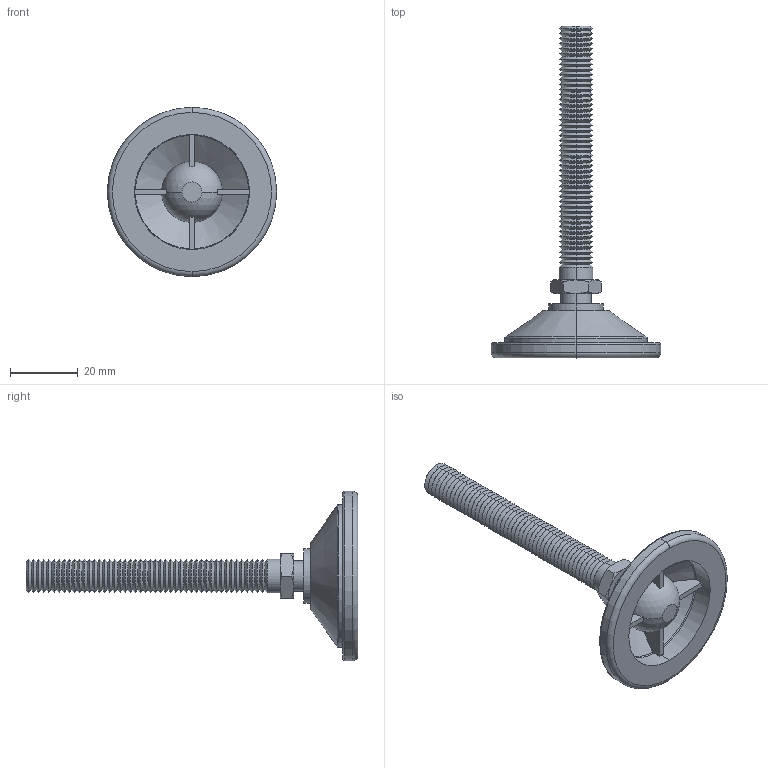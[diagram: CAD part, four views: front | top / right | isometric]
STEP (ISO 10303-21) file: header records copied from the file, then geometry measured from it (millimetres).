
FILE_DESCRIPTION (( 'STEP AP203' ), '1' );
FILE_NAME ('34741.W0105.step', '2016-09-22T07:40:24', ( 'User' ), ( '' ), 'SwSTEP 2.0', 'SolidWorks 2009', '' );
FILE_SCHEMA (( 'CONFIG_CONTROL_DESIGN' ));
Length unit declared in the file: millimetre
Products named in the file (3): Part1_34741.W0105; 34741.W0105; Part2_34741.W0105
Assembly tree (2 placements, depth 2):
  34741.W0105
    Part1_34741.W0105
    Part2_34741.W0105
Bounding box: 50 x 98 x 50 mm (x, y, z)
Volume: 16944.6 mm3; surface area: 11416.4 mm2
Topology: 2 solids, 2 shells, 268 faces, 572 edges, 310 vertices
Faces by surface type: cone 210, plane 26, cylinder 14, torus 12, sphere 6
Entity records: 7437 total; most frequent: DIRECTION 1362, CARTESIAN_POINT 1341, ORIENTED_EDGE 1126, AXIS2_PLACEMENT_3D 566, EDGE_CURVE 563, VERTEX_POINT 305, CIRCLE 293, EDGE_LOOP 274
